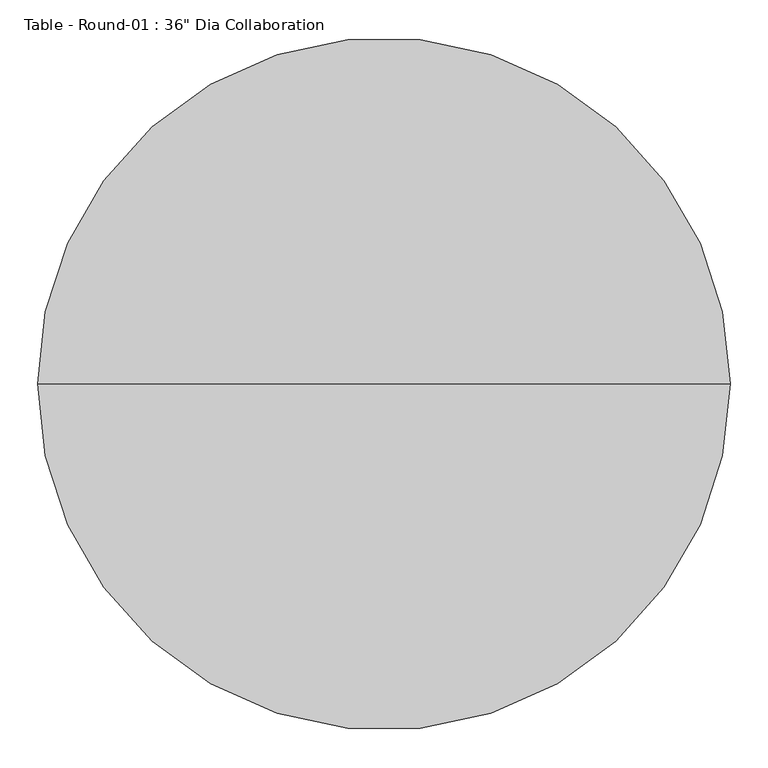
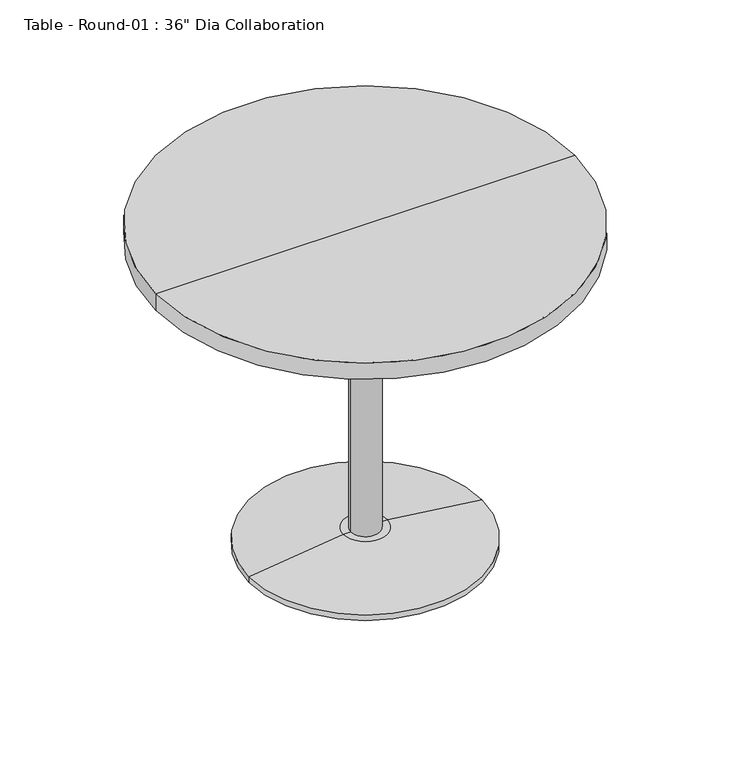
"""IFC4 building model written with IfcOpenShell, lengths in millimetres: furniture geometry."""

from ifc_helpers import new_model, si_unit, point, frame, origin, origin_2d, place, context, project, spatial, polyline, circle_curve, trimmed, segment, composite_curve, outline, extrude, source, transform, mapped, element, save
from ifc_brep_helpers import plane_surface, cylinder_surface, revolved_surface, advanced_brep


def furniture_8b8330fc(model_context):
    return source(origin(), model_context, "Body", "SolidModel", [
        extrude(outline(composite_curve([segment(trimmed(circle_curve(origin_2d(), 31.75), [point((-31.75, 0.0))], [point((31.75, 0.0))], False, "CARTESIAN"), True, "CONTINUOUS"), segment(trimmed(circle_curve(origin_2d(), 31.75), [point((31.75, 0.0))], [point((-31.75, 0.0))], False, "CARTESIAN"), True, "CONTINUOUS")], self_intersect=False)), frame((0.0, 0.0, 38.1), z_axis=(0.0, 0.0, 1.0), x_axis=(1.0, 0.0, 0.0)), (0.0, 0.0, 1.0), 660.4),
        advanced_brep(
        [(457.2, 0.0, 736.6), (-457.2, 0.0, 736.6), (0.0, 0.0, 736.6), (0.0, 0.0, 698.5), (-457.2, 0.0, 698.5), (457.2, 0.0, 698.5)],
        [
            (0, 1, circle_curve(frame((0.0, 0.0, 736.6), z_axis=(0.0, 0.0, 1.0), x_axis=(-1.0, 0.0, 0.0)), 457.2)),
            (1, 2),
            (2, 0),
            (1, 0, circle_curve(frame((0.0, 0.0, 736.6), z_axis=(0.0, 0.0, 1.0), x_axis=(-1.0, 0.0, 0.0)), 457.2)),
            (3, 4),
            (4, 5, circle_curve(frame((0.0, 0.0, 698.5), z_axis=(0.0, 0.0, -1.0), x_axis=(-1.0, 0.0, 0.0)), 457.2)),
            (5, 3),
            (5, 4, circle_curve(frame((0.0, 0.0, 698.5), z_axis=(0.0, 0.0, -1.0), x_axis=(-1.0, 0.0, 0.0)), 457.2)),
            (4, 1),
            (0, 5),
        ],
        [
            plane_surface(frame((0.0, 0.0, 736.6), z_axis=(0.0, 0.0, 1.0), x_axis=(-1.0, 0.0, 0.0))),
            plane_surface(frame((0.0, 0.0, 698.5), z_axis=(0.0, 0.0, -1.0), x_axis=(-1.0, 0.0, 0.0))),
            cylinder_surface(frame((0.0, 0.0, 717.55), z_axis=(0.0, 0.0, -1.0), x_axis=(-1.0, 0.0, 0.0)), 457.2),
        ],
        [
            (0, [[1, 2, 3]]),
            (0, [[4, -3, -2]]),
            (1, [[5, 6, 7]]),
            (1, [[-7, 8, -5]]),
            (2, [[-6, 9, -1, 10]]),
            (2, [[-8, -10, -4, -9]]),
        ],
    ),
        advanced_brep(
        [(0.0, 0.0, 0.0), (-254.0, 0.0, 0.0), (254.0, 0.0, 0.0), (47.625, 0.0, 38.1), (-47.625, 0.0, 38.1), (0.0, 0.0, 38.1), (254.0, 0.0, 12.7), (-254.0, 0.0, 12.7)],
        [
            (0, 1),
            (1, 2, circle_curve(frame((0.0, 0.0, 0.0), z_axis=(0.0, 0.0, -1.0), x_axis=(-1.0, 0.0, 0.0)), 254.0)),
            (2, 0),
            (2, 1, circle_curve(frame((0.0, 0.0, 0.0), z_axis=(0.0, 0.0, -1.0), x_axis=(-1.0, 0.0, 0.0)), 254.0)),
            (3, 4, circle_curve(frame((0.0, 0.0, 38.1), z_axis=(0.0, 0.0, 1.0), x_axis=(-1.0, 0.0, 0.0)), 47.625)),
            (4, 5),
            (5, 3),
            (4, 3, circle_curve(frame((0.0, 0.0, 38.1), z_axis=(0.0, 0.0, 1.0), x_axis=(-1.0, 0.0, 0.0)), 47.625)),
            (6, 7, circle_curve(frame((0.0, 0.0, 12.7), z_axis=(0.0, 0.0, 1.0), x_axis=(-1.0, 0.0, 0.0)), 254.0)),
            (7, 4),
            (3, 6),
            (7, 6, circle_curve(frame((0.0, 0.0, 12.7), z_axis=(0.0, 0.0, 1.0), x_axis=(-1.0, 0.0, 0.0)), 254.0)),
            (1, 7),
            (6, 2),
        ],
        [
            plane_surface(frame((0.0, 0.0, 0.0), z_axis=(0.0, 0.0, -1.0), x_axis=(-1.0, 0.0, 0.0))),
            plane_surface(frame((0.0, 0.0, 38.1), z_axis=(0.0, 0.0, 1.0), x_axis=(-1.0, 0.0, 0.0))),
            revolved_surface(polyline([(-47.625, 0.0, 38.1), (-254.0, 0.0, 12.7)]), (0.0, 0.0, 215.9), (0.0, 0.0, -1.0)),
            cylinder_surface(frame((0.0, 0.0, 215.9), z_axis=(0.0, 0.0, -1.0), x_axis=(-1.0, 0.0, 0.0)), 254.0),
        ],
        [
            (0, [[1, 2, 3]]),
            (0, [[-3, 4, -1]]),
            (1, [[5, 6, 7]]),
            (1, [[8, -7, -6]]),
            (2, [[9, 10, -5, 11]]),
            (2, [[12, -11, -8, -10]]),
            (3, [[-2, 13, -9, 14]]),
            (3, [[-4, -14, -12, -13]]),
        ],
    ),
    ])


if __name__ == "__main__":
    model = new_model("IFC4")
    model_context = context("Model", 3, world=origin())
    ifc_project = project(units=[si_unit("LENGTHUNIT", "METRE", prefix="MILLI")], contexts=[model_context])
    site = spatial("IfcSite", under=ifc_project)
    building = spatial("IfcBuilding", under=site)
    placement = place(None, origin())
    furniture_shape = furniture_8b8330fc(model_context)
    element("IfcFurniture", 1, ObjectType="Table - Round-01 : 36\" Dia Collaboration", at=placement, inside=building, context=model_context, shape_type="MappedRepresentation", body=[
        mapped(furniture_shape, transform((0.0, 0.0, 0.0), x_axis=(1.0, 0.0, 0.0), y_axis=(0.0, 1.0, 0.0), z_axis=(0.0, 0.0, 1.0))),
    ])
    save(model, "model.ifc")
